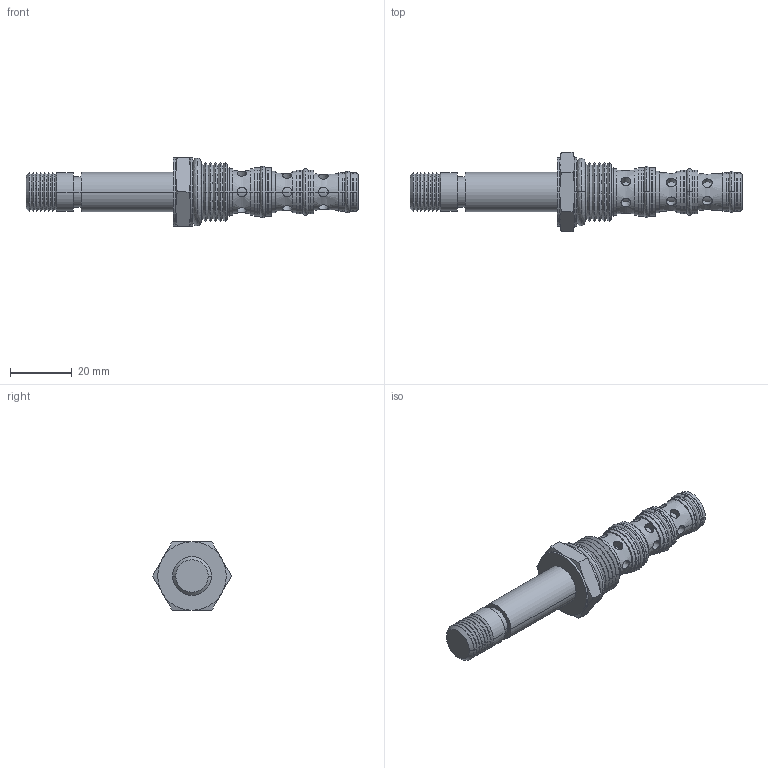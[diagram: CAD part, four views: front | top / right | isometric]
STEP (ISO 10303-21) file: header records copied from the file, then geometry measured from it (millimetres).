
FILE_DESCRIPTION((''),'2;1');
FILE_NAME('U:\Solid model CD\Solid model full\Solenoid\STEP\PQS4C00-3D Full.stp','2008-06-23T11:39:55',('Dan'),(''),'Autodesk Inventor 9','Autodesk Inventor 9','');
FILE_SCHEMA(('AUTOMOTIVE_DESIGN { 1 0 10303 214 1 1 1 1 }'));
Length unit declared in the file: inch
Products named in the file (12): PQS4C00-3D Full; PQS4C00-3D Full1; PQS4C00-3D Full2; PQS4C00-3D Full3; PQS4C00-3D Full4; PQS4C00-3D Full5; PQS4C00-3D Full6; PQS4C00-3D Full7; PQS4C00-3D Full8; PQS4C00-3D Full9; PQS4C00-3D Full10; PQS4C00-3D Full11
Assembly tree (11 placements, depth 2):
  PQS4C00-3D Full
    PQS4C00-3D Full1
    PQS4C00-3D Full2
    PQS4C00-3D Full3
    PQS4C00-3D Full4
    PQS4C00-3D Full5
    PQS4C00-3D Full6
    PQS4C00-3D Full7
    PQS4C00-3D Full8
    PQS4C00-3D Full9
    PQS4C00-3D Full10
    PQS4C00-3D Full11
Bounding box: 107.73 x 25.66 x 22.23 mm (x, y, z)
Volume: 17077.5 mm3; surface area: 9143.4 mm2
Topology: 11 solids, 11 shells, 270 faces, 588 edges, 368 vertices
Faces by surface type: bspline 242, cylinder 24, cone 2, plane 2
Entity records: 12001 total; most frequent: CARTESIAN_POINT 6695, ORIENTED_EDGE 1176, DIRECTION 828, EDGE_CURVE 588, VERTEX_POINT 368, AXIS2_PLACEMENT_3D 321, EDGE_LOOP 318, FACE_OUTER_BOUND 270
